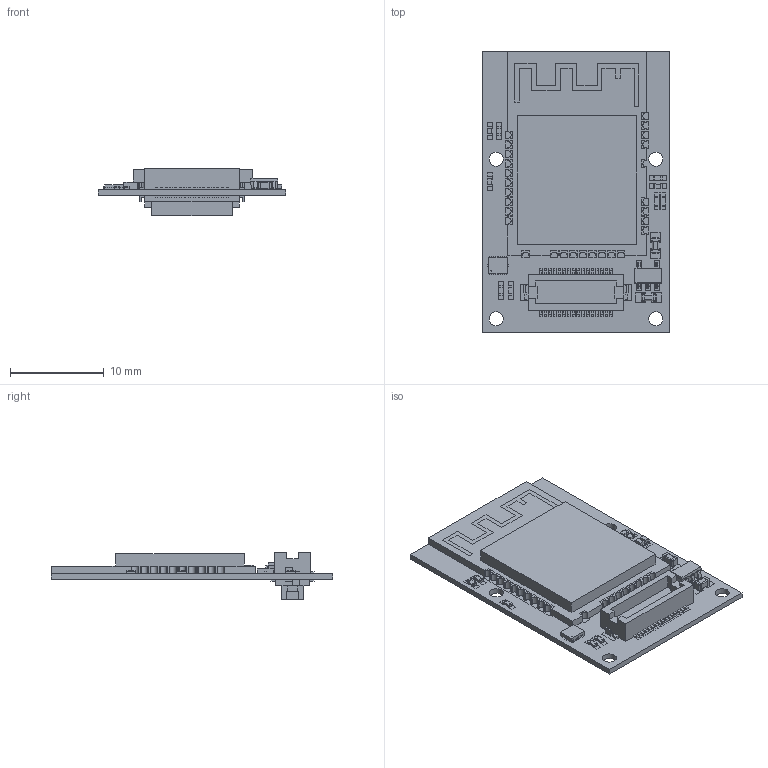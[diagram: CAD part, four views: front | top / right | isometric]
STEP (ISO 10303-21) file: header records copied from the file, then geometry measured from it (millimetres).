
FILE_DESCRIPTION(('FreeCAD Model'),'2;1');
FILE_NAME('/home/devy/MEGA/TinyCircuits/Assets/BoardsANDBoardModels/Shields/TinyCircuits-TinyShield-WiFi-ATWINC1500-ASD2123/cad/TinyShield_WIFI_STEP_ASD2123_REV1.step','2020-07-09T16:44:04',(''),(''), 'Open CASCADE STEP processor 7.4','FreeCAD','Unknown');
FILE_SCHEMA(('AUTOMOTIVE_DESIGN { 1 0 10303 214 1 1 1 1 }'));
Products named in the file (1): TinyShield_WIFI_STEP_ASD2123_REV1
Bounding box: 20 x 30 x 5.1 mm (x, y, z)
Volume: 1865.5 mm3; surface area: 4909.1 mm2
Topology: 213 solids, 253 shells, 2796 faces, 7625 edges, 5859 vertices
Faces by surface type: plane 2576, cylinder 168, sphere 32, revolution 20
Full cylindrical faces by diameter (mm): 0.5 x6, 0.602 x8, 1.502 x8
Entity records: 202343 total; most frequent: CARTESIAN_POINT 33112, DIRECTION 27012, LINE 19876, VECTOR 19876, ORIENTED_EDGE 13894, PCURVE 13894, DEFINITIONAL_REPRESENTATION 13894, EDGE_CURVE 6985
